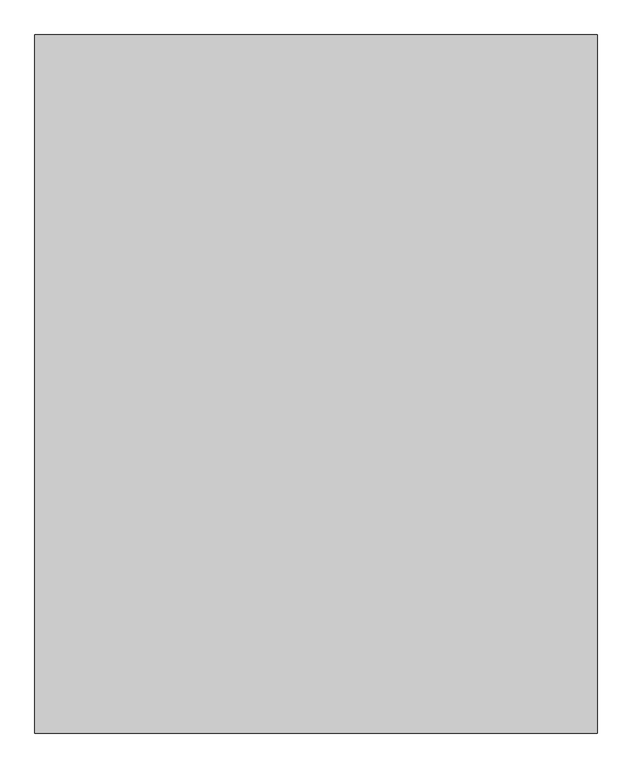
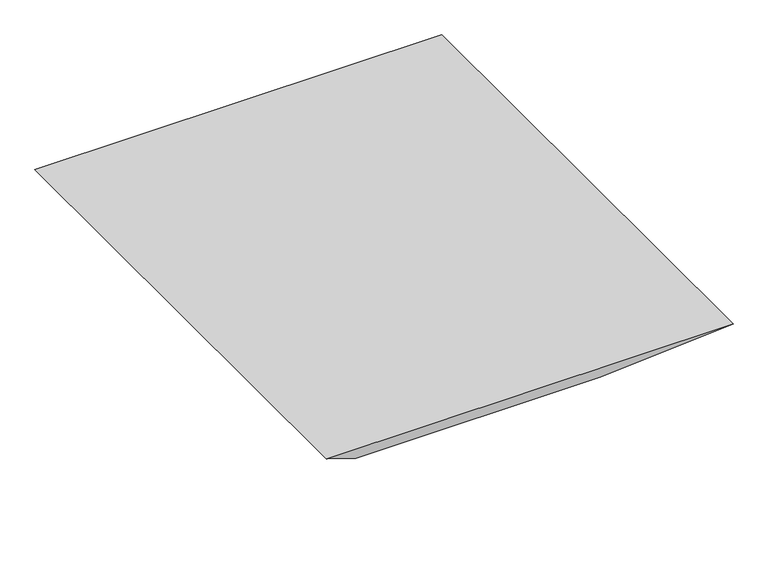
"""IFC4 building model written with IfcOpenShell, lengths in millimetres: proxy geometry, Auffüllung : Auffüllung."""

from ifc_helpers import new_model, si_unit, origin, place, context, project, spatial, faceted_brep, source, transform, mapped, element, save


def generic_models_e3d74de6(model_context):
    return source(origin(), model_context, "Body", "Brep", [
        faceted_brep([(2490.0, 0.0, 0.0), (2490.0, 3090.0, 0.0), (0.0, 3090.0, 0.0), (0.0, 0.0, 0.0), (1995.0, 545.0, -500.0), (495.0, 545.0, -500.0), (495.0, 2545.0, -500.0), (1995.0, 2545.0, -500.0)], [[[0, 1, 2, 3]], [[4, 5, 6, 7]], [[4, 7, 1, 0]], [[7, 6, 2, 1]], [[6, 5, 3, 2]], [[5, 4, 0, 3]]]),
    ])


if __name__ == "__main__":
    model = new_model("IFC4")
    model_context = context("Model", 3, world=origin())
    ifc_project = project(units=[si_unit("LENGTHUNIT", "METRE", prefix="MILLI")], contexts=[model_context])
    site = spatial("IfcSite", under=ifc_project)
    building = spatial("IfcBuilding", under=site)
    placement = place(None, origin())
    generic_models_shape = generic_models_e3d74de6(model_context)
    element("IfcBuildingElementProxy", 1, Name="Auffüllung : Auffüllung", ObjectType="Auffüllung : Auffüllung", at=placement, inside=building, context=model_context, shape_type="MappedRepresentation", body=[
        mapped(generic_models_shape, transform((0.0, 0.0, 0.0), x_axis=(1.0, 0.0, 0.0), y_axis=(0.0, 1.0, 0.0), z_axis=(0.0, 0.0, 1.0))),
    ])
    save(model, "model.ifc")
